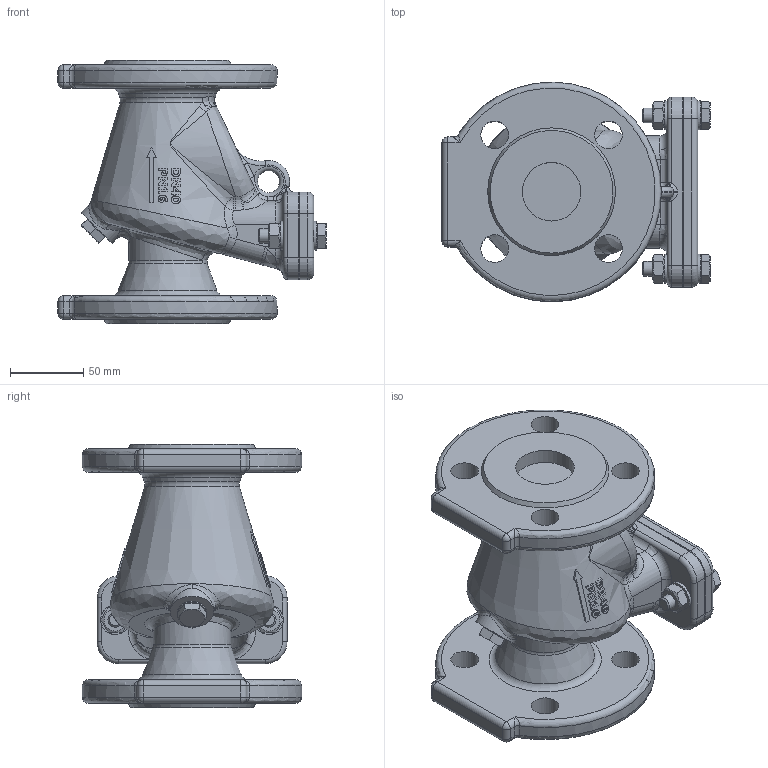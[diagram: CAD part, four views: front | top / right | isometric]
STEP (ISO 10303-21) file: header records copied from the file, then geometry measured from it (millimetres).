
FILE_DESCRIPTION(('STEP AP242'), '1');
FILE_NAME('VAR RETO-STOP 吾疣蝽 觌囡囗 DN 40 PN 16', '2026-06-29T06:23:06', (' '), (' '), 'C3D Converter', 'C3D Toolkit', '');
FILE_SCHEMA(('AP242_MANAGED_MODEL_BASED_3D_ENGINEERING_MIM_LF { 1 0 10303 442 1 1 4 }'));
Length unit declared in the file: millimetre
Products named in the file (1): Admi10D408D9fe3y
Bounding box: 183.4 x 149.99 x 180 mm (x, y, z)
Volume: 1639842.6 mm3; surface area: 155029.4 mm2
Topology: 1 solids, 6 shells, 607 faces, 1506 edges, 914 vertices
Faces by surface type: plane 205, extrusion 110, cylinder 100, bspline 80, cone 61, torus 37, sphere 14
Full cylindrical faces by diameter (mm): 9.076 x1, 10 x7, 10.5 x5, 15 x1, 15.6 x3, 18 x1, 19 x8, 20 x5, 30 x1, 40 x2
Entity records: 42014 total; most frequent: CARTESIAN_POINT 24509, ORIENTED_EDGE 2832, DIRECTION 2101, EDGE_CURVE 1416, VERTEX_POINT 909, AXIS2_PLACEMENT_3D 790, B_SPLINE_CURVE_WITH_KNOTS 743, EDGE_LOOP 723
